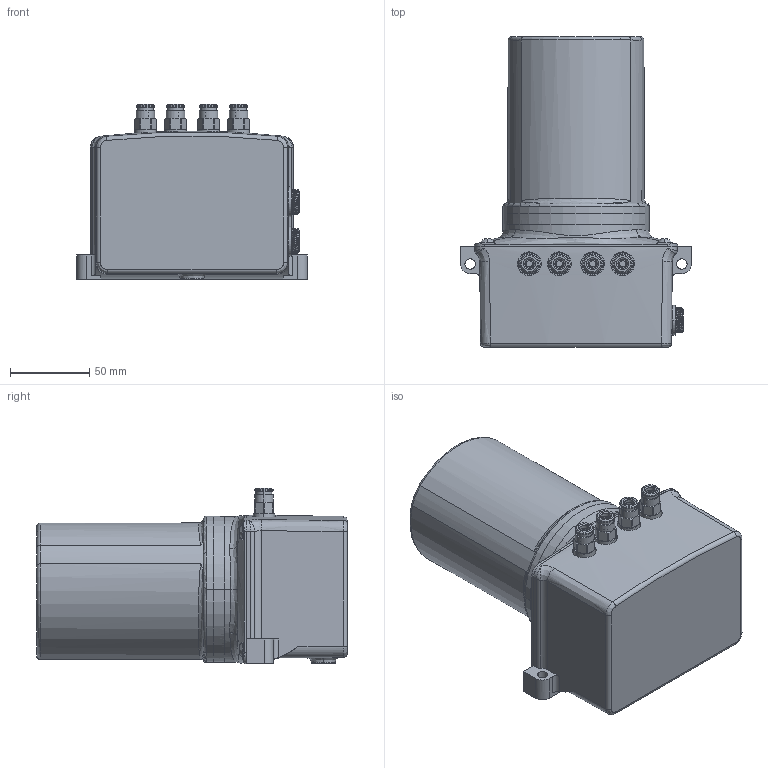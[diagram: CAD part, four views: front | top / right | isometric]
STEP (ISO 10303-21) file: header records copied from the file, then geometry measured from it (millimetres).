
FILE_DESCRIPTION((''),'2;1');
FILE_NAME('ASM0001_ASM','2018-04-27T',('d01226'),(''),'PRO/ENGINEER BY PARAMETRIC TECHNOLOGY CORPORATION, 2008410','PRO/ENGINEER BY PARAMETRIC TECHNOLOGY CORPORATION, 2008410','');
FILE_SCHEMA(('CONFIG_CONTROL_DESIGN'));
Length unit declared in the file: millimetre
Products named in the file (9): M6101003001Z_1223; M6101003002; M6101003004; M5X10; 11111111; M6106001005; M6106001002; M6106_ASM; ASM0001_ASM
Assembly tree (15 placements, depth 3):
  ASM0001_ASM
    M6101003001Z_1223
    M6101003002
    M6101003004
    M5X10  x4
    11111111  x2
    M6106_ASM  x4
      M6106001005
      M6106001002
Bounding box: 146.19 x 196.3 x 110.94 mm (x, y, z)
Volume: 1573388.6 mm3; surface area: 143712.8 mm2
Topology: 17 solids, 17 shells, 1464 faces, 3717 edges, 2346 vertices
Faces by surface type: plane 518, cylinder 437, cone 231, torus 213, bspline 45, sphere 20
Entity records: 20313 total; most frequent: CARTESIAN_POINT 8049, ORIENTED_EDGE 2562, DIRECTION 2509, EDGE_CURVE 1281, AXIS2_PLACEMENT_3D 1014, VERTEX_POINT 816, EDGE_LOOP 559, FACE_OUTER_BOUND 511
